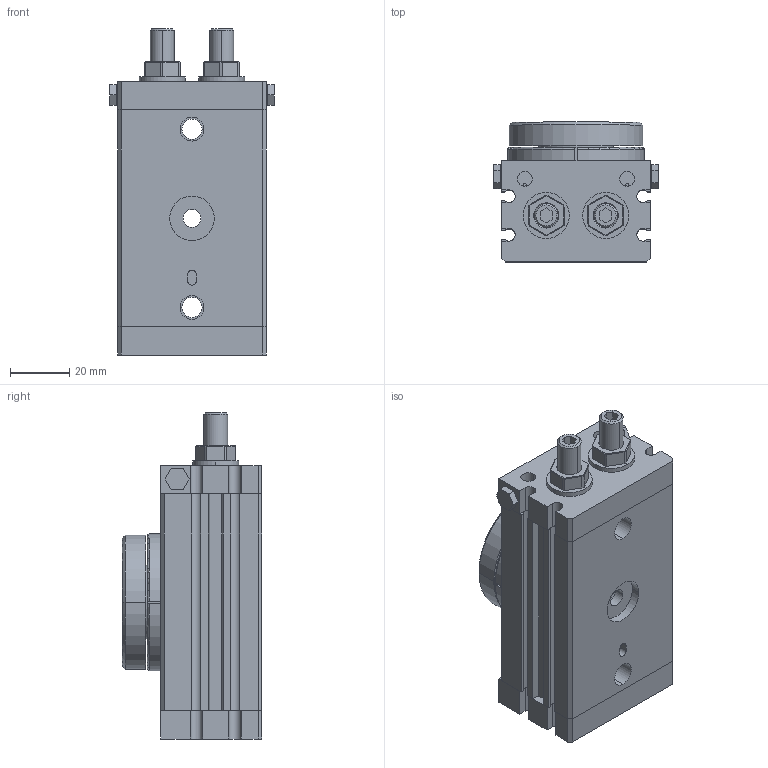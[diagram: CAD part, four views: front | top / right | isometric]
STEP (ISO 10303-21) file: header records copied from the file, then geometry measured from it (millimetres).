
FILE_DESCRIPTION (( 'STEP AP214' ), '1' );
FILE_NAME ('MSQB10A.step.step', '2022-12-08T15:41:25', ( '' ), ( '' ), 'SwSTEP 2.0', 'SolidWorks 2022', '' );
FILE_SCHEMA (( 'AUTOMOTIVE_DESIGN' ));
Length unit declared in the file: millimetre
Products named in the file (5): MSQB10A.step_MSQTop_MSQB10; MSQB10A.step_MSQBody_10B; MSQB10A.step; MSQB10A.step_AdjustBolt_MSQ10; MSQB10A.step_MSQ10-200Plug_MSQ10
Assembly tree (6 placements, depth 2):
  MSQB10A.step
    MSQB10A.step_MSQBody_10B
    MSQB10A.step_MSQTop_MSQB10
    MSQB10A.step_AdjustBolt_MSQ10  x2
    MSQB10A.step_MSQ10-200Plug_MSQ10  x2
Bounding box: 55.4 x 47 x 109.7 mm (x, y, z)
Volume: 156117.7 mm3; surface area: 45102.7 mm2
Topology: 14 solids, 14 shells, 466 faces, 1098 edges, 708 vertices
Faces by surface type: plane 270, cylinder 162, cone 26, torus 8
Entity records: 14026 total; most frequent: DIRECTION 2270, CARTESIAN_POINT 2226, ORIENTED_EDGE 2080, EDGE_CURVE 1040, AXIS2_PLACEMENT_3D 796, VECTOR 678, LINE 678, VERTEX_POINT 670
